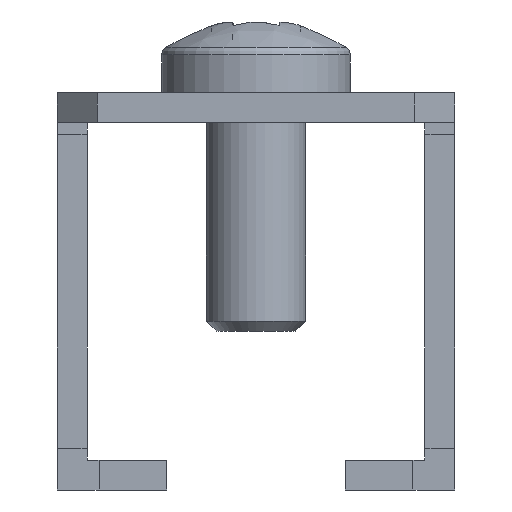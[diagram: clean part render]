
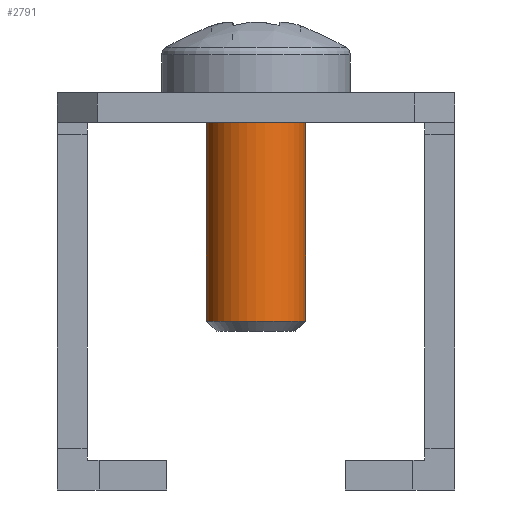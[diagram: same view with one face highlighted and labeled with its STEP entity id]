
A CAD part, left-side view. The second image highlights one B-rep face of the part: STEP entity #2791.
In plain terms, the highlighted cylindrical face has radius 2.5 mm (diameter 5 mm), a full revolution.
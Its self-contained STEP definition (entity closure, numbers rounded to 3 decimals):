
#2791 = ADVANCED_FACE('',(#2792),#2827,.T.);
#2792 = FACE_BOUND('',#2793,.T.);
#2793 = EDGE_LOOP('',(#2794,#2805,#2812,#2819,#2820));
#2794 = ORIENTED_EDGE('',*,*,#2795,.T.);
#2795 = EDGE_CURVE('',#2796,#2798,#2800,.T.);
#2796 = VERTEX_POINT('',#2797);
#2797 = CARTESIAN_POINT('',(15.2,0.,-2.5));
#2798 = VERTEX_POINT('',#2799);
#2799 = CARTESIAN_POINT('',(15.2,0.,2.5));
#2800 = CIRCLE('',#2801,2.5);
#2801 = AXIS2_PLACEMENT_3D('',#2802,#2803,#2804);
#2802 = CARTESIAN_POINT('',(15.2,0.,0.));
#2803 = DIRECTION('',(-1.,-0.,-0.));
#2804 = DIRECTION('',(0.,0.,-1.));
#2805 = ORIENTED_EDGE('',*,*,#2806,.T.);
#2806 = EDGE_CURVE('',#2798,#2807,#2809,.T.);
#2807 = VERTEX_POINT('',#2808);
#2808 = CARTESIAN_POINT('',(3.9,0.,2.5));
#2809 = B_SPLINE_CURVE_WITH_KNOTS('',1,(#2810,#2811),.UNSPECIFIED.,.F.,
  .F.,(2,2),(-40.6,-29.3),.PIECEWISE_BEZIER_KNOTS.);
#2810 = CARTESIAN_POINT('',(15.2,0.,2.5));
#2811 = CARTESIAN_POINT('',(3.9,0.,2.5));
#2812 = ORIENTED_EDGE('',*,*,#2813,.T.);
#2813 = EDGE_CURVE('',#2807,#2807,#2814,.T.);
#2814 = CIRCLE('',#2815,2.5);
#2815 = AXIS2_PLACEMENT_3D('',#2816,#2817,#2818);
#2816 = CARTESIAN_POINT('',(3.9,0.,0.));
#2817 = DIRECTION('',(1.,0.,-0.));
#2818 = DIRECTION('',(0.,0.,1.));
#2819 = ORIENTED_EDGE('',*,*,#2806,.F.);
#2820 = ORIENTED_EDGE('',*,*,#2821,.T.);
#2821 = EDGE_CURVE('',#2798,#2796,#2822,.T.);
#2822 = CIRCLE('',#2823,2.5);
#2823 = AXIS2_PLACEMENT_3D('',#2824,#2825,#2826);
#2824 = CARTESIAN_POINT('',(15.2,0.,0.));
#2825 = DIRECTION('',(-1.,-0.,-0.));
#2826 = DIRECTION('',(0.,0.,-1.));
#2827 = CYLINDRICAL_SURFACE('',#2828,2.5);
#2828 = AXIS2_PLACEMENT_3D('',#2829,#2830,#2831);
#2829 = CARTESIAN_POINT('',(-25.4,0.,0.));
#2830 = DIRECTION('',(-1.,-0.,-0.));
#2831 = DIRECTION('',(-0.,0.,1.));
